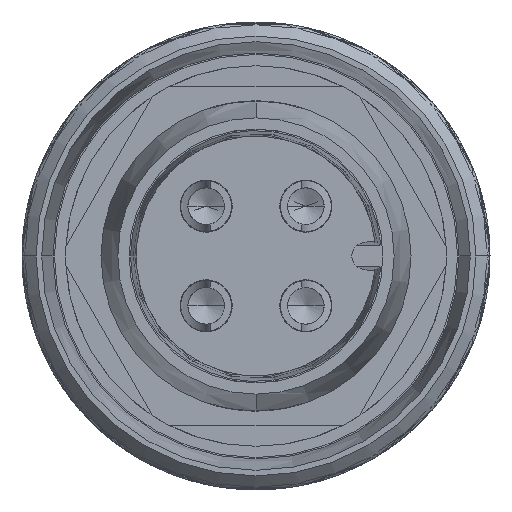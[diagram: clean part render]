
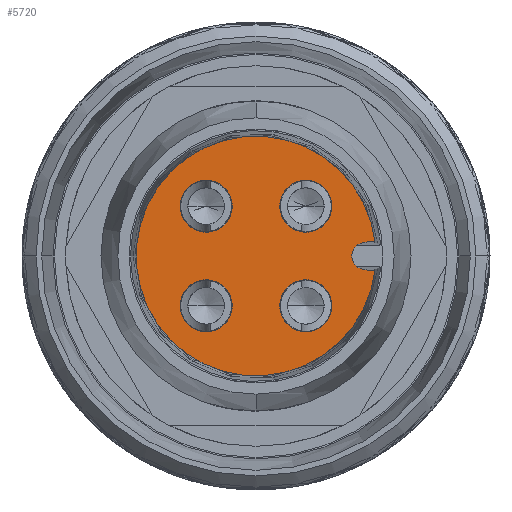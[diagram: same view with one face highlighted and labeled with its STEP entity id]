
A CAD part, left-side view. The second image highlights one B-rep face of the part: STEP entity #5720.
In plain terms, the highlighted planar face has unit normal (-1, 0, 0).
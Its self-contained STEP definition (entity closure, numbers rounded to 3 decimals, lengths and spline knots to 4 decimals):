
#5263=CARTESIAN_POINT('',(0.,0.,-3.95));
#5264=DIRECTION('',(-1.,0.,0.));
#5265=DIRECTION('',(0.,-1.,0.));
#5266=AXIS2_PLACEMENT_3D('',#5263,#5264,#5265);
#5268=DIRECTION('',(0.,0.,-1.));
#5269=VECTOR('',#5268,0.2705);
#5270=CARTESIAN_POINT('',(0.,0.5,-3.95));
#5271=LINE('',#5270,#5269);
#5272=CARTESIAN_POINT('',(0.,0.,0.));
#5273=DIRECTION('',(1.,0.,0.));
#5274=DIRECTION('',(0.,0.118,-0.993));
#5275=AXIS2_PLACEMENT_3D('',#5272,#5273,#5274);
#5277=CARTESIAN_POINT('',(0.,-1.7678,-1.7678));
#5278=DIRECTION('',(-1.,0.,0.));
#5279=DIRECTION('',(0.,1.,0.));
#5280=AXIS2_PLACEMENT_3D('',#5277,#5278,#5279);
#5282=CARTESIAN_POINT('',(0.,-1.7678,-1.7678));
#5283=DIRECTION('',(-1.,0.,0.));
#5284=DIRECTION('',(0.,-1.,0.));
#5285=AXIS2_PLACEMENT_3D('',#5282,#5283,#5284);
#5287=CARTESIAN_POINT('',(0.,1.7678,-1.7678));
#5288=DIRECTION('',(-1.,0.,0.));
#5289=DIRECTION('',(0.,1.,0.));
#5290=AXIS2_PLACEMENT_3D('',#5287,#5288,#5289);
#5292=CARTESIAN_POINT('',(0.,1.7678,-1.7678));
#5293=DIRECTION('',(-1.,0.,0.));
#5294=DIRECTION('',(0.,-1.,0.));
#5295=AXIS2_PLACEMENT_3D('',#5292,#5293,#5294);
#5297=CARTESIAN_POINT('',(0.,1.7678,1.7678));
#5298=DIRECTION('',(-1.,0.,0.));
#5299=DIRECTION('',(0.,1.,0.));
#5300=AXIS2_PLACEMENT_3D('',#5297,#5298,#5299);
#5302=CARTESIAN_POINT('',(0.,1.7678,1.7678));
#5303=DIRECTION('',(-1.,0.,0.));
#5304=DIRECTION('',(0.,-1.,0.));
#5305=AXIS2_PLACEMENT_3D('',#5302,#5303,#5304);
#5307=CARTESIAN_POINT('',(0.,-1.7678,1.7678));
#5308=DIRECTION('',(-1.,0.,0.));
#5309=DIRECTION('',(0.,1.,0.));
#5310=AXIS2_PLACEMENT_3D('',#5307,#5308,#5309);
#5312=CARTESIAN_POINT('',(0.,-1.7678,1.7678));
#5313=DIRECTION('',(-1.,0.,0.));
#5314=DIRECTION('',(0.,-1.,0.));
#5315=AXIS2_PLACEMENT_3D('',#5312,#5313,#5314);
#5325=DIRECTION('',(0.,0.,-1.));
#5326=VECTOR('',#5325,0.2705);
#5327=CARTESIAN_POINT('',(0.,-0.5,-3.95));
#5328=LINE('',#5327,#5326);
#5585=CARTESIAN_POINT('',(0.,-0.5,-3.95));
#5586=CARTESIAN_POINT('',(0.,0.5,-3.95));
#5587=VERTEX_POINT('',#5585);
#5588=VERTEX_POINT('',#5586);
#5589=CARTESIAN_POINT('',(0.,0.5,-4.2205));
#5590=VERTEX_POINT('',#5589);
#5591=CARTESIAN_POINT('',(0.,-0.5,-4.2205));
#5592=VERTEX_POINT('',#5591);
#5593=CARTESIAN_POINT('',(0.,-0.8428,-1.7678));
#5594=CARTESIAN_POINT('',(0.,-2.6928,-1.7678));
#5595=VERTEX_POINT('',#5593);
#5596=VERTEX_POINT('',#5594);
#5597=CARTESIAN_POINT('',(0.,2.6928,-1.7678));
#5598=CARTESIAN_POINT('',(0.,0.8428,-1.7678));
#5599=VERTEX_POINT('',#5597);
#5600=VERTEX_POINT('',#5598);
#5601=CARTESIAN_POINT('',(0.,2.6928,1.7678));
#5602=CARTESIAN_POINT('',(0.,0.8428,1.7678));
#5603=VERTEX_POINT('',#5601);
#5604=VERTEX_POINT('',#5602);
#5605=CARTESIAN_POINT('',(0.,-0.8428,1.7678));
#5606=CARTESIAN_POINT('',(0.,-2.6928,1.7678));
#5607=VERTEX_POINT('',#5605);
#5608=VERTEX_POINT('',#5606);
#5681=CARTESIAN_POINT('',(0.,0.,0.));
#5682=DIRECTION('',(1.,0.,0.));
#5683=DIRECTION('',(0.,-1.,0.));
#5684=AXIS2_PLACEMENT_3D('',#5681,#5682,#5683);
#5685=PLANE('',#5684);
#5687=ORIENTED_EDGE('',*,*,#5686,.T.);
#5689=ORIENTED_EDGE('',*,*,#5688,.T.);
#5691=ORIENTED_EDGE('',*,*,#5690,.T.);
#5693=ORIENTED_EDGE('',*,*,#5692,.F.);
#5694=EDGE_LOOP('',(#5687,#5689,#5691,#5693));
#5695=FACE_OUTER_BOUND('',#5694,.F.);
#5697=ORIENTED_EDGE('',*,*,#5696,.T.);
#5699=ORIENTED_EDGE('',*,*,#5698,.T.);
#5700=EDGE_LOOP('',(#5697,#5699));
#5701=FACE_BOUND('',#5700,.F.);
#5703=ORIENTED_EDGE('',*,*,#5702,.T.);
#5705=ORIENTED_EDGE('',*,*,#5704,.T.);
#5706=EDGE_LOOP('',(#5703,#5705));
#5707=FACE_BOUND('',#5706,.F.);
#5709=ORIENTED_EDGE('',*,*,#5708,.T.);
#5711=ORIENTED_EDGE('',*,*,#5710,.T.);
#5712=EDGE_LOOP('',(#5709,#5711));
#5713=FACE_BOUND('',#5712,.F.);
#5715=ORIENTED_EDGE('',*,*,#5714,.T.);
#5717=ORIENTED_EDGE('',*,*,#5716,.T.);
#5718=EDGE_LOOP('',(#5715,#5717));
#5719=FACE_BOUND('',#5718,.F.);
#5720=ADVANCED_FACE('',(#5695,#5701,#5707,#5713,#5719),#5685,.F.);
#5267=CIRCLE('',#5266,0.5);
#5276=CIRCLE('',#5275,4.25);
#5281=CIRCLE('',#5280,0.925);
#5286=CIRCLE('',#5285,0.925);
#5291=CIRCLE('',#5290,0.925);
#5296=CIRCLE('',#5295,0.925);
#5301=CIRCLE('',#5300,0.925);
#5306=CIRCLE('',#5305,0.925);
#5311=CIRCLE('',#5310,0.925);
#5316=CIRCLE('',#5315,0.925);
#5686=EDGE_CURVE('',#5587,#5588,#5267,.T.);
#5688=EDGE_CURVE('',#5588,#5590,#5271,.T.);
#5690=EDGE_CURVE('',#5590,#5592,#5276,.T.);
#5692=EDGE_CURVE('',#5587,#5592,#5328,.T.);
#5696=EDGE_CURVE('',#5595,#5596,#5281,.T.);
#5698=EDGE_CURVE('',#5596,#5595,#5286,.T.);
#5702=EDGE_CURVE('',#5599,#5600,#5291,.T.);
#5704=EDGE_CURVE('',#5600,#5599,#5296,.T.);
#5708=EDGE_CURVE('',#5603,#5604,#5301,.T.);
#5710=EDGE_CURVE('',#5604,#5603,#5306,.T.);
#5714=EDGE_CURVE('',#5607,#5608,#5311,.T.);
#5716=EDGE_CURVE('',#5608,#5607,#5316,.T.);
